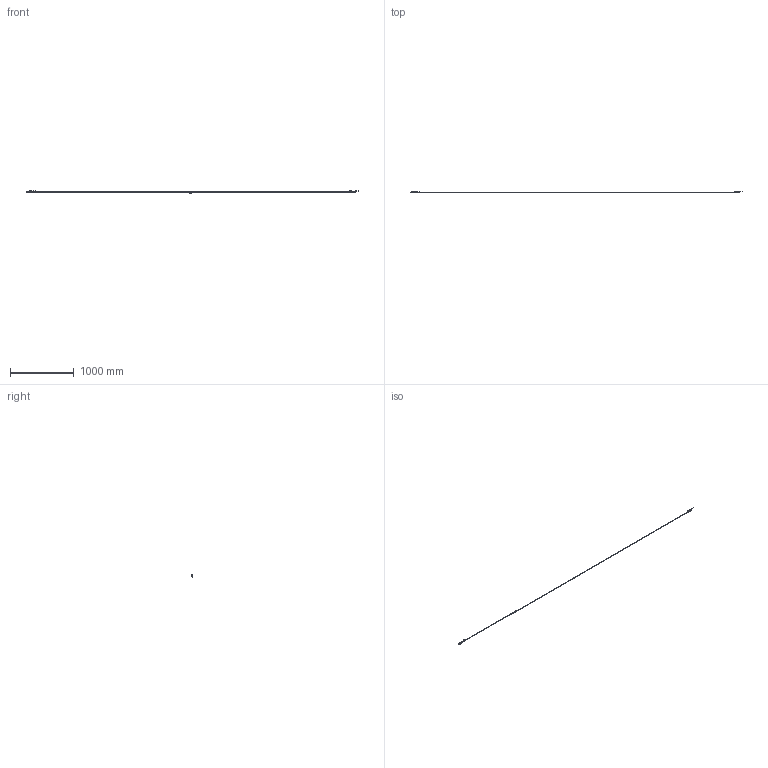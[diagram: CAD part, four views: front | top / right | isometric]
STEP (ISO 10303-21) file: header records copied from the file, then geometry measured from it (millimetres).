
FILE_DESCRIPTION(('Creo Elements/Direct Modeling STEP Export'),'2;1');
FILE_NAME('ITA-5070.stp','2025-01-29T14:39:01',(''),(''),'Creo Elements/Direct Modeling STEP processor for AP214 (Solid Model)','Creo Elements/Direct Modeling 20.4A 18-Oct-2021 (C) Parametric Technology GmbH','');
FILE_SCHEMA(('AUTOMOTIVE_DESIGN { 1 0 10303 214 1 1 1 1 }'));
Length unit declared in the file: millimetre
Products named in the file (10): MAGNET_L1; MAGNET_L2; TAPE_5070; END_TAPE_1; END_TAPE_2; READING_HEAD_1; MAGNET_I0; READING_HEAD_2; ITA-5070; ITA-5070.stp
Assembly tree (9 placements, depth 3):
  ITA-5070.stp
    ITA-5070
      READING_HEAD_2
      MAGNET_I0
      READING_HEAD_1
      END_TAPE_2
      END_TAPE_1
      TAPE_5070
      MAGNET_L2
      MAGNET_L1
Bounding box: 5221.13 x 15.04 x 34.81 mm (x, y, z)
Volume: 53182.3 mm3; surface area: 122787.8 mm2
Topology: 8 solids, 8 shells, 1250 faces, 3429 edges, 2226 vertices
Faces by surface type: plane 908, cylinder 234, bspline 42, cone 32, torus 22, sphere 12
Entity records: 49174 total; most frequent: CARTESIAN_POINT 9938, ORIENTED_EDGE 6818, DIRECTION 6123, EDGE_CURVE 3409, VECTOR 2785, LINE 2785, VERTEX_POINT 2226, AXIS2_PLACEMENT_3D 1669
